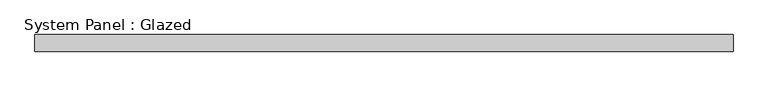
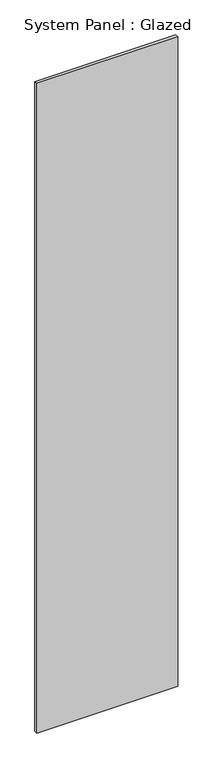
"""IFC4 building model written with IfcOpenShell, lengths in millimetres: plate geometry, System Panel : Glazed."""

from ifc_helpers import new_model, si_unit, origin, origin_with_axes, place, context, project, spatial, polyline, outline, extrude, source, transform, mapped, element, save


def system_panel_glazed_64a0f904(model_context):
    return source(origin(), model_context, "Body", "SweptSolid", [
        extrude(outline(polyline([(520.6597667, -12.5), (-520.6597667, -12.5), (-520.6597667, 12.5), (520.6597667, 12.5), (520.6597667, -12.5)])), origin_with_axes(), (0.0, 0.0, 1.0), 5080.0),
    ])


if __name__ == "__main__":
    model = new_model("IFC4")
    model_context = context("Model", 3, world=origin())
    ifc_project = project(units=[si_unit("LENGTHUNIT", "METRE", prefix="MILLI")], contexts=[model_context])
    site = spatial("IfcSite", under=ifc_project)
    building = spatial("IfcBuilding", under=site)
    placement = place(None, origin())
    system_panel_glazed_shape = system_panel_glazed_64a0f904(model_context)
    element("IfcPlate", 1, ObjectType="System Panel : Glazed", at=placement, inside=building, context=model_context, shape_type="MappedRepresentation", body=[
        mapped(system_panel_glazed_shape, transform((0.0, 0.0, 0.0), x_axis=(1.0, 0.0, 0.0), y_axis=(0.0, 1.0, 0.0), z_axis=(0.0, 0.0, 1.0))),
    ])
    save(model, "model.ifc")
